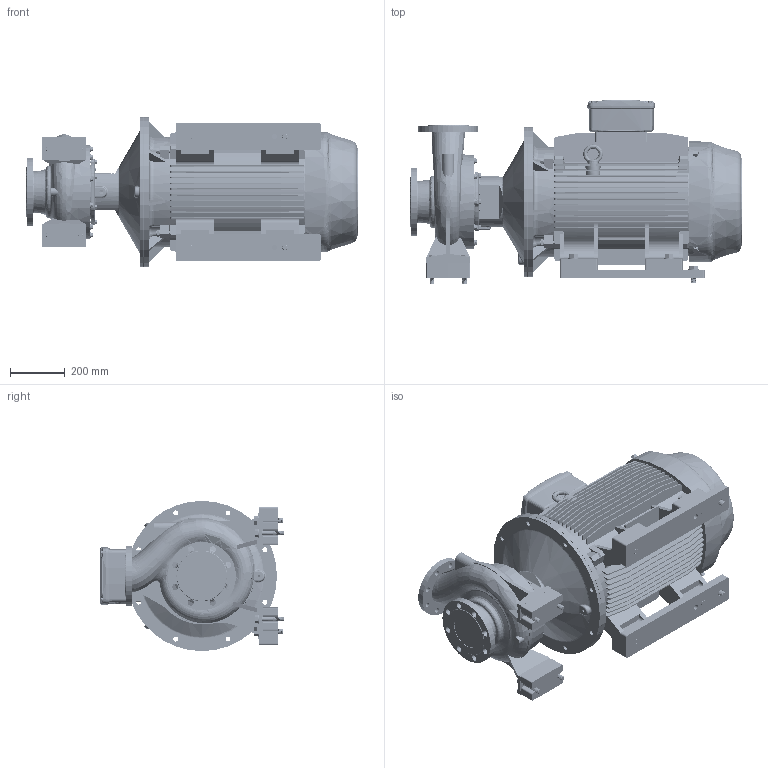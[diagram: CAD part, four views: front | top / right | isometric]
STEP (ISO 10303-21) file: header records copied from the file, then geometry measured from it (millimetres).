
FILE_DESCRIPTION (( 'STEP AP214' ), '1' );
FILE_NAME ('GSD2 100-250_55 & 75_(250SM)_W21.STEP', '2026-07-07T04:49:23', ( '' ), ( '' ), 'SwSTEP 2.0', 'SolidWorks 2024', '' );
FILE_SCHEMA (( 'AUTOMOTIVE_DESIGN' ));
Length unit declared in the file: millimetre
Products named in the file (13): Parametric bolt and washer_SFT-A377B; GSD2  100-250_55 & 75_(250SM)_W21; Parametric bolt_SFT-A417B; Parametric bolt and washer_SFT-A417B; 250S_M2P IE3_W21T_B35; Parametric bolt_SFT-A377B; Parametric Flat Washer_M20; Parametric Flat Washer_M16; CGS11-5321_2_3_4_5_CGS11-5322; CGS11-5321_2_3_4_5_CGS11-5324; 100x30 - CGSDA-5291; 100-250-250S_M_ﾃﾞﾌｫﾙﾄ; A407B Bolt_407
Assembly tree (24 placements, depth 3):
  GSD2  100-250_55 & 75_(250SM)_W21
    100-250-250S_M_ﾃﾞﾌｫﾙﾄ
    250S_M2P IE3_W21T_B35
    CGS11-5321_2_3_4_5_CGS11-5322  x2
    CGS11-5321_2_3_4_5_CGS11-5324  x2
    100x30 - CGSDA-5291  x2
    A407B Bolt_407  x2
    Parametric Flat Washer_M20  x2
    Parametric bolt and washer_SFT-A417B  x4
      Parametric bolt_SFT-A417B
      Parametric Flat Washer_M20
    Parametric bolt and washer_SFT-A377B  x4
      Parametric bolt_SFT-A377B
      Parametric Flat Washer_M16
Bounding box: 1215.5 x 674 x 550 mm (x, y, z)
Volume: 146779939.4 mm3; surface area: 5612909.6 mm2
Topology: 29 solids, 34 shells, 4210 faces, 11155 edges, 7134 vertices
Faces by surface type: plane 1637, cylinder 1485, cone 474, bspline 316, torus 282, sphere 16
Entity records: 176068 total; most frequent: CARTESIAN_POINT 90414, ORIENTED_EDGE 18906, DIRECTION 16835, EDGE_CURVE 9453, AXIS2_PLACEMENT_3D 6166, VERTEX_POINT 6027, VECTOR 4503, LINE 4503
